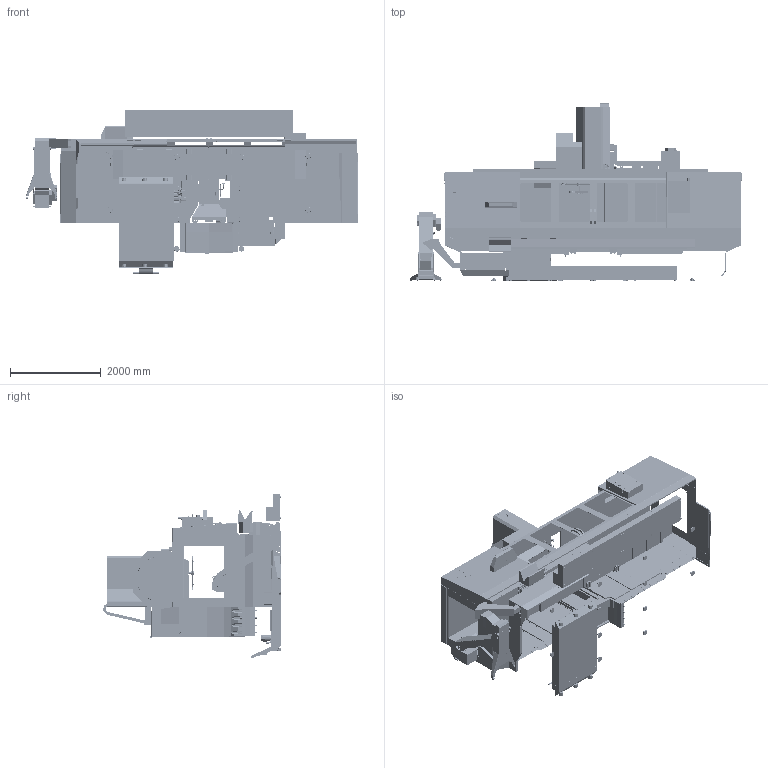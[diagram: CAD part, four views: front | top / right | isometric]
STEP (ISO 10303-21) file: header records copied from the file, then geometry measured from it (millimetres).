
FILE_DESCRIPTION (( 'STEP AP214' ), '1' );
FILE_NAME ('VF-10_50_8in-EXT_STEP__7_2022.step', '2022-07-05T16:15:18', ( '' ), ( '' ), 'SwSTEP 2.0', 'SolidWorks 2021', '' );
FILE_SCHEMA (( 'AUTOMOTIVE_DESIGN' ));
Length unit declared in the file: inch
Products named in the file (57): HAAS-P-COOL; VF-10_DOOR; 10000010579_defeature; CARRIER_VF-10_50_6_2022; 30-SMTC ARM LOW_VF-10_50_6_2022; 10000010567_defeature; TABLE_VF-10_50_6_2022; 30-SMTC_VF-10_50_6_2022; PA_VF-10_50_6_2022; PADS_VF-10_50_6_2022; 95-Gal Coolant Tank; PENDANT STORAGE; 30-SMTC ARM HIGH_VF-10_50_6_2022; ENCLOSURE TOP_VF-10_50_6_2022; COLUMN_VF-10_50_6_2022; CONV-SHELF-VF-MD; EES_VF-10_50_6_2022; CONV PKG_VF-10_50_6_2022; PENDANT BODY; ENCLOSURE BOTTOM_VF-10_50_6_2022; SPINDLE HEAD_VF-10_50_6_2022; Pads_DF; SPINDLE HEAD 50T- VF_10-50; CABBLE CARRIER; 1000012737_defeature; BASE_VF-10_50_6_2022; 50T ARM; ENCLOSURE EXHAUST SYSTEM; 8in Z-EXTENSION; HPC_VF-10_50_6_2022; HCL_VF-10_50_6_2022; HAAS CHIP-LIFT; skrt; 10000128129_defeature; CHIP CHUTE_VF-10_50_6_2022; VF-10_50_8in-EXT_STEP__7_2022; PENDANT AND STORAGE_SIMPLIFIED CLOSED; 10000095056_defeature; PANEL; 50T Spindle_37-4212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
Assembly tree (73 placements, depth 4):
  VF-10_50_8in-EXT_STEP__7_2022
    BASE_VF-10_50_6_2022
      10000128129_defeature
    COLUMN_VF-10_50_6_2022
      1000012737_defeature
    SADDLE_VF-10_50_6_2022
      10000010579_defeature
    TABLE_VF-10_50_6_2022
      10000010567_defeature
    SPINDLE HEAD_VF-10_50_6_2022
      NOZZLE  x5
      SPINDLE HEAD 50T- VF_10-50
      50T Spindle_37-4212
    ENCLOSURE TOP_VF-10_50_6_2022
      VF-10_TOP_50t
      PANEL
      BACK-PANEL
    ENCLOSURE BOTTOM_VF-10_50_6_2022
      VF-10_BOTTOM
      skrt
    DOOR_VF-10_50_6_2022
      VF-10_DOOR
    PENDANT_VF-10_50_6_2022
      PENDANT AND STORAGE_SIMPLIFIED CLOSED
        PENDANT STORAGE
        PENDANT BODY
    A-CABIN_VF-10_50_6_2022
      AIR-CABIN_CLOSED
    E-CABIN_VF-10_50_6_2022
      ELECTIRCAL CABINET_DOOR CLOSED
    CARRIER_VF-10_50_6_2022
      CABBLE CARRIER
    30-SMTC ARM HIGH_VF-10_50_6_2022
      50T ARM
    30-SMTC ARM LOW_VF-10_50_6_2022
      50T ARM
    30-SMTC_VF-10_50_6_2022
      10000173171_defeature
    CONV PKG_VF-10_50_6_2022
      CONV-HOLDER-VF-MD
      CONV-SHELF-VF-MD
    95-GAL COOLANT TANK_VF-10_50_6_2022
      95-Gal Coolant Tank
    PADS_VF-10_50_6_2022
      Pads_DF  x12
    PA_VF-10_50_6_2022
      PROGRAMMABLE AIR
    HPC_VF-10_50_6_2022
      HAAS-P-COOL
    EES_VF-10_50_6_2022
      ENCLOSURE EXHAUST SYSTEM
    CHIP CHUTE_VF-10_50_6_2022
      10000095056_defeature
    HCL_VF-10_50_6_2022
      HAAS CHIP-LIFT
    8in Z-EXTENSION
      10000010943_defeature
    PLATFORM-30-9158C  x2
Bounding box: 7302.94 x 3924.04 x 3614.75 mm (x, y, z)
Topology: 53 solids, 213 shells, 16674 faces, 44954 edges, 28825 vertices
Faces by surface type: plane 11467, cylinder 3988, bspline 610, cone 503, torus 62, sphere 44
Full cylindrical faces by diameter (mm): 4.039 x8, 4.826 x4, 5.105 x8, 5.319 x2, 6.35 x3, 7.137 x2, 7.144 x1, 13.487 x3, 13.894 x5, 19.05 x1, 21.031 x9, 22.225 x1, 41.148 x1
Entity records: 675374 total; most frequent: CARTESIAN_POINT 135503, ORIENTED_EDGE 97134, DIRECTION 89128, EDGE_CURVE 48567, LINE 35532, VECTOR 35532, VERTEX_POINT 30930, AXIS2_PLACEMENT_3D 26798
